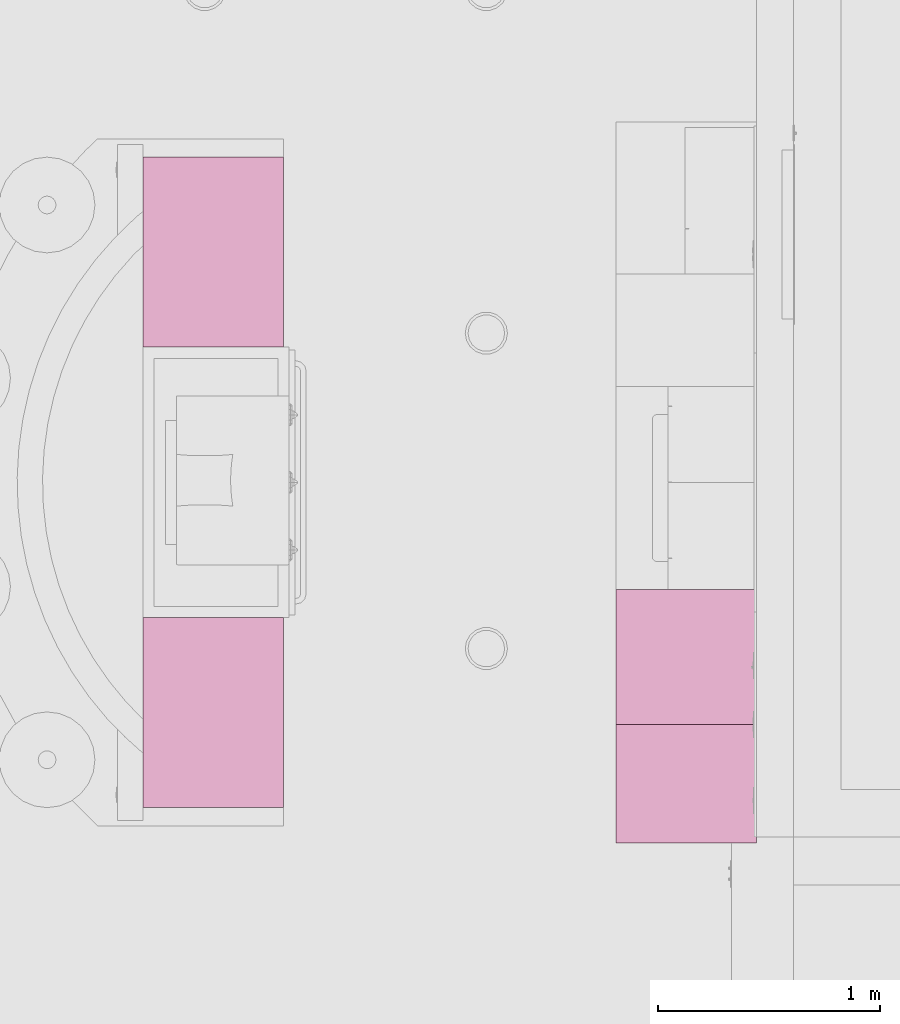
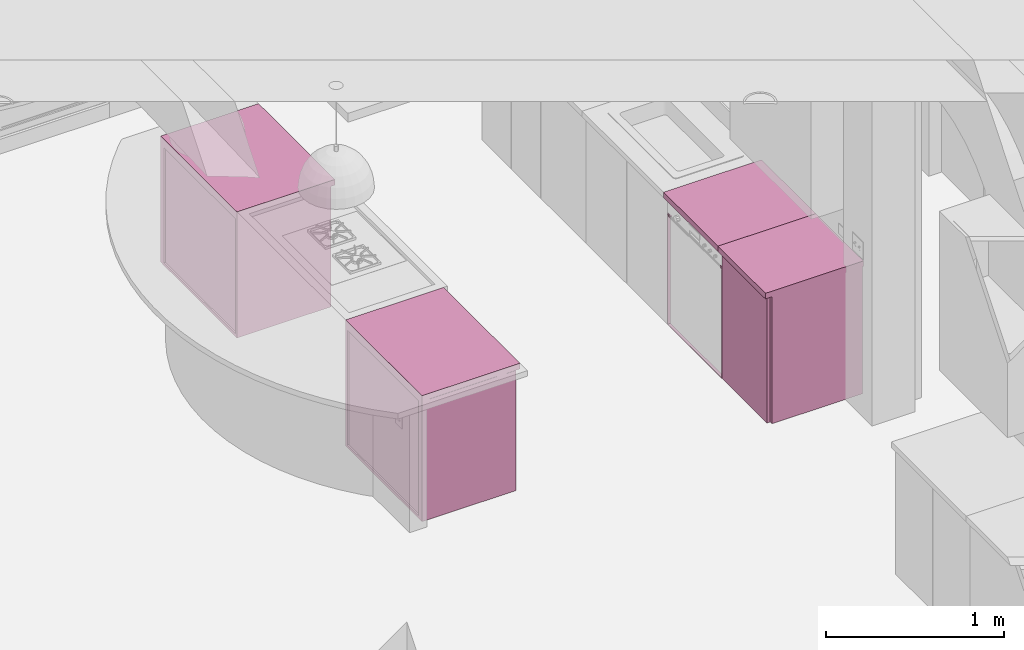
# One storey, part 46 of 103: 4 furnishings.
"""IFC2X3 building model written with IfcOpenShell, lengths in inches."""

from ifc_helpers import new_model, entity, si_unit, converted_unit, derived_unit, money_unit, direction, frame, origin_with_axes, place, context, subcontext, project, spatial, faceted_brep, type_object, element, save


model = new_model("IFC2X3")

# Units and contexts
model_context = context("Model", 3, precision=0.00039370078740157, world=origin_with_axes(), true_north=direction((0.0, 1.0)))
plan_context = context("Plan", 3, precision=0.00039370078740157, world=origin_with_axes(), true_north=direction((0.0, 1.0)))
body_context = subcontext(model_context, "Body", "Model", "MODEL_VIEW")
ifc_project = project(units=[converted_unit("LENGTHUNIT", "INCH", entity("IfcPositiveLengthMeasure", 0.0254), si_unit("LENGTHUNIT", "METRE"), dimensions=[1, 0, 0, 0, 0, 0, 0]), converted_unit("AREAUNIT", "SQUARE_FOOT", entity("IfcPositiveLengthMeasure", 0.09290304), si_unit("AREAUNIT", "SQUARE_METRE"), dimensions=[2, 0, 0, 0, 0, 0, 0]), si_unit("PLANEANGLEUNIT", "RADIAN"), si_unit("SOLIDANGLEUNIT", "STERADIAN"), money_unit("USD"), converted_unit("TIMEUNIT", "Year", entity("IfcTimeMeasure", 31557600.0), si_unit("TIMEUNIT", "SECOND"), dimensions=[0, 0, 1, 0, 0, 0, 0]), si_unit("MASSUNIT", "GRAM", prefix="KILO"), si_unit("THERMODYNAMICTEMPERATUREUNIT", "DEGREE_CELSIUS"), si_unit("LUMINOUSINTENSITYUNIT", "LUMEN"), si_unit("ENERGYUNIT", "JOULE", prefix="MEGA"), derived_unit("SPECIFICHEATCAPACITYUNIT", [(si_unit("ENERGYUNIT", "JOULE"), 1), (si_unit("MASSUNIT", "GRAM", prefix="KILO"), -1), (si_unit("THERMODYNAMICTEMPERATUREUNIT", "KELVIN"), -1)])], contexts=[model_context, plan_context])

# Site, building, storey
site_placement = place(None, origin_with_axes())
site = spatial("IfcSite", under=ifc_project, at=site_placement, Name="Site", CompositionType="ELEMENT")
building_placement = place(site_placement, origin_with_axes())
building = spatial("IfcBuilding", under=site, at=building_placement, Name="Building", CompositionType="ELEMENT")
storey_placement = place(building_placement, frame((0.0, 0.0, 127.9999999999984), z_axis=(0.0, 0.0, 1.0), x_axis=(1.0, 0.0, 0.0)))
storey = spatial("IfcBuildingStorey", under=building, at=storey_placement, Name="Second Floor", CompositionType="ELEMENT", Elevation=128.0)

# Furnishings
furniture_type = type_object("IfcFurnitureType", Name="Base Cabinet Block", AssemblyPlace="NOTDEFINED")
furnishing_1_placement = place(storey_placement, frame((45.99979504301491, 235.9951834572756, 0.0), z_axis=(0.0, 0.0, 1.0), x_axis=(-2.019381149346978e-06, 0.9999999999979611, 0.0)))
element("IfcFurnishingElement", 1, at=furnishing_1_placement, inside=storey, type_object=furniture_type, Name="OBJ-16", context=body_context, shape_type="Brep", body=[
    faceted_brep([(0.0, -24.99999999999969, 32.49999999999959), (0.0, -24.99999999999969, 33.99999999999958), (-33.74999999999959, -24.99999999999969, 33.99999999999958), (-33.74999999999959, -24.99999999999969, 32.49999999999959), (0.0, 0.0, 32.49999999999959), (0.0, 0.0, 33.99999999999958), (-33.74999999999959, 0.0, 33.99999999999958), (-33.74999999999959, 0.0, 32.49999999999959)], [[[0, 1, 2, 3]], [[4, 5, 1, 0]], [[1, 5, 6, 2]], [[3, 2, 6, 7]], [[0, 3, 7, 4]], [[7, 6, 5, 4]]]),
    faceted_brep([(-32.99999999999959, -23.96062992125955, 0.039370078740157), (-33.74999999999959, -23.96062992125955, 0.03937007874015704), (-33.74999999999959, -0.03937007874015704, 0.03937007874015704), (-32.99999999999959, -0.03937007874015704, 0.039370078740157), (-32.99999999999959, -23.96062992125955, 32.46062992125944), (-33.74999999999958, -23.96062992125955, 32.46062992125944), (-33.74999999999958, -0.03937007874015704, 32.46062992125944), (-32.99999999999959, -0.03937007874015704, 32.46062992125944)], [[[0, 1, 2, 3]], [[4, 5, 1, 0]], [[1, 5, 6, 2]], [[3, 2, 6, 7]], [[0, 3, 7, 4]], [[7, 6, 5, 4]]]),
    faceted_brep([(-0.7499999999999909, -23.9999999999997, 0.0), (-0.7499999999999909, -23.9999999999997, 0.7499999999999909), (-32.2499999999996, -23.9999999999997, 0.7499999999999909), (-32.2499999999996, -23.9999999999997, 0.0), (-0.7499999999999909, 0.0, 0.0), (-0.7499999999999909, 0.0, 0.7499999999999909), (-32.2499999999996, 0.0, 0.7499999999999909), (-32.2499999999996, 0.0, 0.0)], [[[0, 1, 2, 3]], [[4, 5, 1, 0]], [[1, 5, 6, 2]], [[3, 2, 6, 7]], [[0, 3, 7, 4]], [[7, 6, 5, 4]]]),
    faceted_brep([(-0.7499999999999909, -23.9999999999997, 31.74999999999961), (-32.2499999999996, -23.9999999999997, 31.74999999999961), (-32.2499999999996, -21.63779527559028, 31.74999999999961), (-0.7499999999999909, -21.63779527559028, 31.74999999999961), (-0.7499999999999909, -23.9999999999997, 32.49999999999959), (-32.2499999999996, -23.9999999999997, 32.49999999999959), (-32.2499999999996, -21.63779527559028, 32.49999999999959), (-0.7499999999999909, -21.63779527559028, 32.49999999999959)], [[[0, 1, 2, 3]], [[4, 5, 1, 0]], [[1, 5, 6, 2]], [[3, 2, 6, 7]], [[0, 3, 7, 4]], [[7, 6, 5, 4]]]),
    faceted_brep([(-32.2499999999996, 0.0, 31.74999999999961), (-0.7499999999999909, 0.0, 31.74999999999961), (-0.7499999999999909, -2.36220472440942, 31.74999999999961), (-32.2499999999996, -2.36220472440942, 31.74999999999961), (-32.2499999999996, 0.0, 32.49999999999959), (-0.7499999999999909, 0.0, 32.49999999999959), (-0.7499999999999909, -2.36220472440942, 32.49999999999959), (-32.2499999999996, -2.36220472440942, 32.49999999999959)], [[[0, 1, 2, 3]], [[4, 5, 1, 0]], [[1, 5, 6, 2]], [[3, 2, 6, 7]], [[0, 3, 7, 4]], [[7, 6, 5, 4]]]),
    faceted_brep([(0.0, 0.0, 0.0), (0.0, 0.0, 32.49999999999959), (0.0, -23.9999999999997, 32.49999999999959), (0.0, -23.9999999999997, 0.0), (-0.7499999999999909, 0.0, 0.0), (-0.7499999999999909, 0.0, 32.49999999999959), (-0.7499999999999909, -23.9999999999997, 32.49999999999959), (-0.7499999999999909, -23.9999999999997, 0.0)], [[[0, 1, 2, 3]], [[4, 5, 1, 0]], [[1, 5, 6, 2]], [[3, 2, 6, 7]], [[0, 3, 7, 4]], [[7, 6, 5, 4]]]),
    faceted_brep([(-32.99999999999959, -23.9999999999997, 0.0), (-32.99999999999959, -23.9999999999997, 32.49999999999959), (-32.99999999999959, 0.0, 32.49999999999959), (-32.99999999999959, 0.0, 0.0), (-32.2499999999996, -23.9999999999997, 0.0), (-32.2499999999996, -23.9999999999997, 32.49999999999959), (-32.2499999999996, 0.0, 32.49999999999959), (-32.2499999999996, 0.0, 0.0)], [[[0, 1, 2, 3]], [[4, 5, 1, 0]], [[1, 5, 6, 2]], [[3, 2, 6, 7]], [[0, 3, 7, 4]], [[7, 6, 5, 4]]]),
    faceted_brep([(-32.2499999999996, -0.3749999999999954, 0.7499999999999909), (-32.2499999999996, -0.3749999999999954, 31.74999999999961), (-0.7499999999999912, -0.3749999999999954, 31.74999999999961), (-0.7499999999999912, -0.3749999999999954, 0.7499999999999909), (-32.2499999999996, -0.7499999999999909, 0.7499999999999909), (-32.2499999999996, -0.7499999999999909, 31.74999999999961), (-0.7499999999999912, -0.7499999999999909, 31.74999999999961), (-0.7499999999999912, -0.7499999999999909, 0.7499999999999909)], [[[0, 1, 2, 3]], [[4, 5, 1, 0]], [[1, 5, 6, 2]], [[3, 2, 6, 7]], [[0, 3, 7, 4]], [[7, 6, 5, 4]]]),
])
furnishing_2_placement = place(storey_placement, frame((154.9997849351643, 241.0007128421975, 0.0), z_axis=(0.0, 0.0, 1.0), x_axis=(2.019381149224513e-06, -0.9999999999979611, 0.0)))
element("IfcFurnishingElement", 2, at=furnishing_2_placement, inside=storey, type_object=furniture_type, Name="OBJ-16", context=body_context, shape_type="Brep", body=[
    faceted_brep([(0.0, -24.99999999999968, 35.99999999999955), (0.0, -24.99999999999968, 34.49999999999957), (23.99999999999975, -24.99999999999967, 34.49999999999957), (23.99999999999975, -24.99999999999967, 35.99999999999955), (0.0, 0.0, 35.99999999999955), (0.0, 0.0, 34.49999999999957), (23.99999999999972, 0.0, 34.49999999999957), (23.99999999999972, 0.0, 35.99999999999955)], [[[0, 1, 2, 3]], [[4, 5, 1, 0]], [[2, 1, 5, 6]], [[3, 2, 6, 7]], [[4, 0, 3, 7]], [[7, 6, 5, 4]]]),
    faceted_brep([(0.7500000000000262, -23.9999999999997, 0.05905511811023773), (0.7500000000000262, -23.24999999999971, 0.05905511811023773), (0.7500000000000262, -23.24999999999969, 0.0), (0.7500000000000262, -23.9999999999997, 0.0), (23.24999999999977, -23.24999999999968, 0.05905511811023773), (23.24999999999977, -23.99999999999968, 0.05905511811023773), (23.24999999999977, -23.24999999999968, 0.0), (23.24999999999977, -23.9999999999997, 0.0)], [[[0, 1, 2, 3]], [[4, 1, 0, 5]], [[1, 4, 6, 2]], [[2, 6, 7, 3]], [[5, 0, 3, 7]], [[4, 5, 7, 6]]]),
    faceted_brep([(23.24999999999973, -0.3749999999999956, 33.74999999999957), (23.24999999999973, -0.3749999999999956, 0.7499999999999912), (0.7500000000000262, -0.3749999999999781, 0.7499999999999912), (0.7500000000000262, -0.3749999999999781, 33.74999999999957), (23.24999999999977, -0.7499999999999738, 33.74999999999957), (23.24999999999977, -0.7499999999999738, 0.7499999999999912), (0.7500000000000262, -0.7499999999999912, 0.7499999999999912), (0.7500000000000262, -0.7499999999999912, 33.74999999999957)], [[[0, 1, 2, 3]], [[4, 5, 1, 0]], [[2, 1, 5, 6]], [[3, 2, 6, 7]], [[4, 0, 3, 7]], [[7, 6, 5, 4]]]),
    faceted_brep([(0.7500000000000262, -0.7499999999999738, 33.74999999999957), (0.7500000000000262, -0.7499999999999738, 34.49999999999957), (0.7500000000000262, 0.0, 34.49999999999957), (0.7500000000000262, 0.0, 33.74999999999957), (23.24999999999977, -0.7499999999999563, 34.49999999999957), (23.24999999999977, -0.7499999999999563, 33.74999999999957), (23.24999999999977, 0.0, 34.49999999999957), (23.24999999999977, 0.0, 33.74999999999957)], [[[0, 1, 2, 3]], [[4, 1, 0, 5]], [[1, 4, 6, 2]], [[2, 6, 7, 3]], [[5, 0, 3, 7]], [[4, 5, 7, 6]]]),
    faceted_brep([(-4.816189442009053e-07, -23.99999999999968, 29.38188976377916), (-4.816189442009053e-07, -23.24999999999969, 29.38188976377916), (-4.816189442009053e-07, -23.24999999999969, 0.0), (0.0, -23.9999999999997, 0.0), (0.7500000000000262, -23.9999999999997, 29.38188976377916), (0.7500000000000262, -23.24999999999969, 29.38188976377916), (0.7500000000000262, -23.24999999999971, 29.32283464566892), (0.0590546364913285, -23.24999999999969, 29.32283464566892), (0.0590546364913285, -23.24999999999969, 0.05905511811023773), (0.7500000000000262, -23.24999999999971, 0.05905511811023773), (0.7500000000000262, -23.24999999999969, 0.0), (0.7500000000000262, -23.9999999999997, 0.0), (0.7500000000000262, -23.9999999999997, 0.05905511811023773), (0.0590546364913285, -23.99999999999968, 0.05905511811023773), (0.0590546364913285, -23.99999999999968, 29.32283464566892), (0.7500000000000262, -23.9999999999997, 29.32283464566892)], [[[0, 1, 2, 3]], [[1, 0, 4, 5]], [[1, 5, 6, 7, 8, 9, 10, 2]], [[2, 10, 11, 3]], [[4, 0, 3, 11, 12, 13, 14, 15]], [[4, 15, 6, 5]], [[7, 6, 15, 14]], [[8, 7, 14, 13]], [[9, 8, 13, 12]], [[9, 12, 11, 10]]]),
    faceted_brep([(23.24999999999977, -23.99999999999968, 29.38188976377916), (23.24999999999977, -23.24999999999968, 29.38188976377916), (23.24999999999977, -23.24999999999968, 29.32283464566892), (23.24999999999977, -23.99999999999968, 29.32283464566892), (23.99999951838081, -23.99999999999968, 29.38188976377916), (23.99999951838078, -23.24999999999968, 29.38188976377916), (23.99999951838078, -23.24999999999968, 0.0), (23.24999999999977, -23.24999999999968, 0.0), (23.24999999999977, -23.24999999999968, 0.05905511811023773), (23.94094440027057, -23.24999999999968, 0.05905511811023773), (23.94094440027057, -23.24999999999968, 29.32283464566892), (23.94094440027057, -23.99999999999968, 29.32283464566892), (23.94094440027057, -23.99999999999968, 0.05905511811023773), (23.24999999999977, -23.99999999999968, 0.05905511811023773), (23.24999999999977, -23.9999999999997, 0.0), (23.99999999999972, -23.9999999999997, 0.0)], [[[0, 1, 2, 3]], [[1, 0, 4, 5]], [[1, 5, 6, 7, 8, 9, 10, 2]], [[3, 2, 10, 11]], [[4, 0, 3, 11, 12, 13, 14, 15]], [[4, 15, 6, 5]], [[7, 6, 15, 14]], [[13, 8, 7, 14]], [[9, 8, 13, 12]], [[10, 9, 12, 11]]]),
    faceted_brep([(0.7500000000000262, -0.7499999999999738, 0.0), (0.7500000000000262, -0.7499999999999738, 0.7499999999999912), (0.7500000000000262, 0.0, 0.7499999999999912), (0.7500000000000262, 0.0, 0.0), (23.24999999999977, -0.7499999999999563, 0.7499999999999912), (23.24999999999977, -0.7499999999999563, 0.0), (23.24999999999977, 0.0, 0.7499999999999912), (23.24999999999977, 0.0, 0.0)], [[[0, 1, 2, 3]], [[4, 1, 0, 5]], [[1, 4, 6, 2]], [[6, 7, 3, 2]], [[5, 0, 3, 7]], [[4, 5, 7, 6]]]),
    faceted_brep([(-4.816189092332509e-07, -0.7499999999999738, 34.49999999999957), (0.0, 0.0, 34.49999999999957), (0.0, 0.0, 0.0), (-4.816189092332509e-07, -0.7499999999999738, 0.0), (0.7500000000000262, -0.7499999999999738, 34.49999999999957), (0.7500000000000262, 0.0, 34.49999999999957), (0.7500000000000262, 0.0, 0.0), (0.7500000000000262, -0.7499999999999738, 0.0)], [[[0, 1, 2, 3]], [[0, 4, 5, 1]], [[5, 6, 2, 1]], [[7, 3, 2, 6]], [[7, 4, 0, 3]], [[7, 6, 5, 4]]]),
    faceted_brep([(23.24999999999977, -0.7499999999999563, 34.49999999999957), (23.24999999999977, 0.0, 34.49999999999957), (23.24999999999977, 0.0, 0.0), (23.24999999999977, -0.7499999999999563, 0.0), (23.99999951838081, -0.7499999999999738, 34.49999999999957), (23.99999999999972, 0.0, 34.49999999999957), (23.99999999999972, 0.0, 0.0), (23.99999951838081, -0.7499999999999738, 0.0)], [[[0, 1, 2, 3]], [[0, 4, 5, 1]], [[5, 6, 2, 1]], [[7, 3, 2, 6]], [[7, 4, 0, 3]], [[7, 6, 5, 4]]]),
    faceted_brep([(-4.816189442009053e-07, -23.99999999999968, 29.74746906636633), (-4.816189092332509e-07, -23.81249999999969, 29.74746906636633), (-4.816189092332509e-07, -23.81249999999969, 29.56467941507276), (-4.816189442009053e-07, -23.99999999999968, 29.56467941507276), (0.7500000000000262, -23.81249999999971, 29.74746906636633), (0.7500000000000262, -23.9999999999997, 29.74746906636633), (0.7500000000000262, -23.81249999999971, 29.56467941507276), (0.7500000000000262, -23.9999999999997, 29.56467941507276)], [[[0, 1, 2, 3]], [[4, 1, 0, 5]], [[1, 4, 6, 2]], [[3, 2, 6, 7]], [[5, 0, 3, 7]], [[4, 5, 7, 6]]]),
    faceted_brep([(23.24999999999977, -23.99999999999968, 29.74746906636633), (23.24999999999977, -23.81249999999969, 29.74746906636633), (23.24999999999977, -23.81249999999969, 29.56467941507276), (23.24999999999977, -23.99999999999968, 29.56467941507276), (23.99999951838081, -23.81249999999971, 29.74746906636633), (23.99999951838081, -23.99999999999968, 29.74746906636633), (23.99999951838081, -23.81249999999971, 29.56467941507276), (23.99999951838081, -23.99999999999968, 29.56467941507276)], [[[0, 1, 2, 3]], [[4, 1, 0, 5]], [[1, 4, 6, 2]], [[3, 2, 6, 7]], [[5, 0, 3, 7]], [[4, 5, 7, 6]]]),
    faceted_brep([(0.7500000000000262, -23.81249999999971, 29.93025871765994), (-4.816189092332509e-07, -23.81249999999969, 29.93025871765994), (-4.816189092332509e-07, -23.81249999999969, 30.11304836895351), (0.7500000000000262, -23.81249999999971, 30.11304836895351), (-4.816189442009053e-07, -23.99999999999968, 29.93025871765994), (0.7500000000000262, -23.9999999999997, 29.93025871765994), (-4.816189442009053e-07, -23.99999999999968, 30.11304836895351), (0.7500000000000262, -23.9999999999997, 30.11304836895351)], [[[0, 1, 2, 3]], [[4, 1, 0, 5]], [[1, 4, 6, 2]], [[3, 2, 6, 7]], [[5, 0, 3, 7]], [[4, 5, 7, 6]]]),
    faceted_brep([(23.99999951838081, -23.81249999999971, 29.93025871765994), (23.24999999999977, -23.81249999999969, 29.93025871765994), (23.24999999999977, -23.81249999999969, 30.11304836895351), (23.99999951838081, -23.81249999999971, 30.11304836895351), (23.24999999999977, -23.99999999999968, 29.93025871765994), (23.99999951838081, -23.99999999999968, 29.93025871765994), (23.24999999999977, -23.99999999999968, 30.11304836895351), (23.99999951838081, -23.99999999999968, 30.11304836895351)], [[[0, 1, 2, 3]], [[4, 1, 0, 5]], [[1, 4, 6, 2]], [[3, 2, 6, 7]], [[5, 0, 3, 7]], [[4, 5, 7, 6]]]),
])
furnishing_3_placement = place(storey_placement, frame((154.9998334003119, 217.0007128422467, 0.0), z_axis=(0.0, 0.0, 1.0), x_axis=(2.019381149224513e-06, -0.9999999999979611, 0.0)))
element("IfcFurnishingElement", 3, at=furnishing_3_placement, inside=storey, type_object=furniture_type, Name="OBJ-15", context=body_context, shape_type="Brep", body=[
    faceted_brep([(0.0, -24.99999999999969, 34.49999999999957), (20.99999999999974, -24.99999999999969, 34.49999999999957), (20.99999999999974, -24.99999999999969, 35.99999999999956), (0.0, -24.99999999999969, 35.99999999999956), (0.0, 0.0, 34.49999999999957), (20.99999999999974, 0.0, 34.49999999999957), (20.99999999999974, 0.0, 35.99999999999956), (0.0, 0.0, 35.99999999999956)], [[[0, 1, 2, 3]], [[0, 4, 5, 1]], [[1, 5, 6, 2]], [[3, 2, 6, 7]], [[4, 0, 3, 7]], [[5, 4, 7, 6]]]),
    faceted_brep([(0.039370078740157, -23.24999999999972, 0.039370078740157), (19.9606299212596, -23.24999999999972, 0.039370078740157), (19.9606299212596, -23.99999999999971, 0.03937007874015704), (0.039370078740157, -23.99999999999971, 0.03937007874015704), (0.039370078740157, -23.24999999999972, 34.46062992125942), (19.9606299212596, -23.24999999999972, 34.46062992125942), (19.9606299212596, -23.9999999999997, 34.46062992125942), (0.039370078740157, -23.9999999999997, 34.46062992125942)], [[[0, 1, 2, 3]], [[0, 4, 5, 1]], [[1, 5, 6, 2]], [[3, 2, 6, 7]], [[4, 0, 3, 7]], [[5, 4, 7, 6]]]),
    faceted_brep([(19.99999999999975, -23.21062992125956, 0.039370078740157), (19.99999999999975, -0.03937007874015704, 0.039370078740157), (20.74999999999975, -0.03937007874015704, 0.03937007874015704), (20.74999999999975, -23.21062992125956, 0.03937007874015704), (19.99999999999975, -23.21062992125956, 34.46062992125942), (19.99999999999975, -0.03937007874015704, 34.46062992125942), (20.74999999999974, -0.03937007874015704, 34.46062992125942), (20.74999999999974, -23.21062992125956, 34.46062992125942)], [[[0, 1, 2, 3]], [[0, 4, 5, 1]], [[1, 5, 6, 2]], [[3, 2, 6, 7]], [[4, 0, 3, 7]], [[5, 4, 7, 6]]]),
    faceted_brep([(0.7499999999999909, -23.24999999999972, 0.0), (19.24999999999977, -23.24999999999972, 0.0), (19.24999999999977, -23.24999999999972, 0.7499999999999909), (0.7499999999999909, -23.24999999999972, 0.7499999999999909), (0.7499999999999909, 0.0, 0.0), (19.24999999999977, 0.0, 0.0), (19.24999999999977, 0.0, 0.7499999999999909), (0.7499999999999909, 0.0, 0.7499999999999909)], [[[0, 1, 2, 3]], [[0, 4, 5, 1]], [[1, 5, 6, 2]], [[3, 2, 6, 7]], [[4, 0, 3, 7]], [[5, 4, 7, 6]]]),
    faceted_brep([(0.7499999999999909, -23.24999999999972, 33.74999999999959), (0.7499999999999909, -20.8877952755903, 33.74999999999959), (19.24999999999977, -20.8877952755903, 33.74999999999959), (19.24999999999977, -23.24999999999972, 33.74999999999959), (0.7499999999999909, -23.24999999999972, 34.49999999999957), (0.7499999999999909, -20.8877952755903, 34.49999999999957), (19.24999999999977, -20.8877952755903, 34.49999999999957), (19.24999999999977, -23.24999999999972, 34.49999999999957)], [[[0, 1, 2, 3]], [[0, 4, 5, 1]], [[1, 5, 6, 2]], [[3, 2, 6, 7]], [[4, 0, 3, 7]], [[5, 4, 7, 6]]]),
    faceted_brep([(19.24999999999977, 0.0, 33.74999999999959), (19.24999999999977, -2.36220472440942, 33.74999999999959), (0.7499999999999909, -2.36220472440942, 33.74999999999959), (0.7499999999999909, 0.0, 33.74999999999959), (19.24999999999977, 0.0, 34.49999999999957), (19.24999999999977, -2.36220472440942, 34.49999999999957), (0.7499999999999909, -2.36220472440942, 34.49999999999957), (0.7499999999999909, 0.0, 34.49999999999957)], [[[0, 1, 2, 3]], [[0, 4, 5, 1]], [[1, 5, 6, 2]], [[3, 2, 6, 7]], [[4, 0, 3, 7]], [[5, 4, 7, 6]]]),
    faceted_brep([(0.0, 0.0, 0.0), (0.0, -23.24999999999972, 0.0), (0.0, -23.24999999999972, 34.49999999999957), (0.0, 0.0, 34.49999999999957), (0.7499999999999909, 0.0, 0.0), (0.7499999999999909, -23.24999999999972, 0.0), (0.7499999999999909, -23.24999999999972, 34.49999999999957), (0.7499999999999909, 0.0, 34.49999999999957)], [[[0, 1, 2, 3]], [[0, 4, 5, 1]], [[1, 5, 6, 2]], [[3, 2, 6, 7]], [[4, 0, 3, 7]], [[5, 4, 7, 6]]]),
    faceted_brep([(19.99999999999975, -23.24999999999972, 0.0), (19.99999999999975, 0.0, 0.0), (19.99999999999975, 0.0, 34.49999999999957), (19.99999999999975, -23.24999999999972, 34.49999999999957), (19.24999999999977, -23.24999999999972, 0.0), (19.24999999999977, 0.0, 0.0), (19.24999999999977, 0.0, 34.49999999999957), (19.24999999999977, -23.24999999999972, 34.49999999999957)], [[[0, 1, 2, 3]], [[0, 4, 5, 1]], [[1, 5, 6, 2]], [[3, 2, 6, 7]], [[4, 0, 3, 7]], [[5, 4, 7, 6]]]),
    faceted_brep([(19.24999999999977, -0.3749999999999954, 0.7499999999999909), (0.7499999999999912, -0.3749999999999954, 0.7499999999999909), (0.7499999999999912, -0.3749999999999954, 33.74999999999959), (19.24999999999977, -0.3749999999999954, 33.74999999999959), (19.24999999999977, -0.7499999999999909, 0.7499999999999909), (0.7499999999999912, -0.7499999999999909, 0.7499999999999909), (0.7499999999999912, -0.7499999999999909, 33.74999999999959), (19.24999999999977, -0.7499999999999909, 33.74999999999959)], [[[0, 1, 2, 3]], [[0, 4, 5, 1]], [[1, 5, 6, 2]], [[3, 2, 6, 7]], [[4, 0, 3, 7]], [[5, 4, 7, 6]]]),
])
furnishing_4_placement = place(storey_placement, frame((45.99969810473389, 283.9991381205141, 0.0), z_axis=(0.0, 0.0, 1.0), x_axis=(-2.019381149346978e-06, 0.9999999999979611, 0.0)))
element("IfcFurnishingElement", 4, at=furnishing_4_placement, inside=storey, type_object=furniture_type, Name="OBJ-16", context=body_context, shape_type="Brep", body=[
    faceted_brep([(0.0, -24.99999999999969, 32.49999999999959), (33.74999999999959, -24.99999999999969, 32.49999999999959), (33.74999999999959, -24.99999999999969, 33.99999999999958), (0.0, -24.99999999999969, 33.99999999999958), (0.0, 0.0, 32.49999999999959), (33.74999999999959, 0.0, 32.49999999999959), (33.74999999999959, 0.0, 33.99999999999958), (0.0, 0.0, 33.99999999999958)], [[[0, 1, 2, 3]], [[0, 4, 5, 1]], [[1, 5, 6, 2]], [[3, 2, 6, 7]], [[4, 0, 3, 7]], [[5, 4, 7, 6]]]),
    faceted_brep([(32.99999999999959, -23.96062992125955, 0.039370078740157), (32.99999999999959, -0.03937007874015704, 0.039370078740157), (33.74999999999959, -0.03937007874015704, 0.03937007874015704), (33.74999999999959, -23.96062992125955, 0.03937007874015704), (32.99999999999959, -23.96062992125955, 32.46062992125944), (32.99999999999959, -0.03937007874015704, 32.46062992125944), (33.74999999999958, -0.03937007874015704, 32.46062992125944), (33.74999999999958, -23.96062992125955, 32.46062992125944)], [[[0, 1, 2, 3]], [[0, 4, 5, 1]], [[1, 5, 6, 2]], [[3, 2, 6, 7]], [[4, 0, 3, 7]], [[5, 4, 7, 6]]]),
    faceted_brep([(0.7499999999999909, -23.9999999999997, 0.0), (32.2499999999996, -23.9999999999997, 0.0), (32.2499999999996, -23.9999999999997, 0.7499999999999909), (0.7499999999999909, -23.9999999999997, 0.7499999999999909), (0.7499999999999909, 0.0, 0.0), (32.2499999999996, 0.0, 0.0), (32.2499999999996, 0.0, 0.7499999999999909), (0.7499999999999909, 0.0, 0.7499999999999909)], [[[0, 1, 2, 3]], [[0, 4, 5, 1]], [[1, 5, 6, 2]], [[3, 2, 6, 7]], [[4, 0, 3, 7]], [[5, 4, 7, 6]]]),
    faceted_brep([(0.7499999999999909, -23.9999999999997, 31.74999999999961), (0.7499999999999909, -21.63779527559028, 31.74999999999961), (32.2499999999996, -21.63779527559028, 31.74999999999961), (32.2499999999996, -23.9999999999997, 31.74999999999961), (0.7499999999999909, -23.9999999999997, 32.49999999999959), (0.7499999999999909, -21.63779527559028, 32.49999999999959), (32.2499999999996, -21.63779527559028, 32.49999999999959), (32.2499999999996, -23.9999999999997, 32.49999999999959)], [[[0, 1, 2, 3]], [[0, 4, 5, 1]], [[1, 5, 6, 2]], [[3, 2, 6, 7]], [[4, 0, 3, 7]], [[5, 4, 7, 6]]]),
    faceted_brep([(32.2499999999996, 0.0, 31.74999999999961), (32.2499999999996, -2.36220472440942, 31.74999999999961), (0.7499999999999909, -2.36220472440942, 31.74999999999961), (0.7499999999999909, 0.0, 31.74999999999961), (32.2499999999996, 0.0, 32.49999999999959), (32.2499999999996, -2.36220472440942, 32.49999999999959), (0.7499999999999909, -2.36220472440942, 32.49999999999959), (0.7499999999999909, 0.0, 32.49999999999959)], [[[0, 1, 2, 3]], [[0, 4, 5, 1]], [[1, 5, 6, 2]], [[3, 2, 6, 7]], [[4, 0, 3, 7]], [[5, 4, 7, 6]]]),
    faceted_brep([(0.0, 0.0, 0.0), (0.0, -23.9999999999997, 0.0), (0.0, -23.9999999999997, 32.49999999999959), (0.0, 0.0, 32.49999999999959), (0.7499999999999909, 0.0, 0.0), (0.7499999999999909, -23.9999999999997, 0.0), (0.7499999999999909, -23.9999999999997, 32.49999999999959), (0.7499999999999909, 0.0, 32.49999999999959)], [[[0, 1, 2, 3]], [[0, 4, 5, 1]], [[1, 5, 6, 2]], [[3, 2, 6, 7]], [[4, 0, 3, 7]], [[5, 4, 7, 6]]]),
    faceted_brep([(32.99999999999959, -23.9999999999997, 0.0), (32.99999999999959, 0.0, 0.0), (32.99999999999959, 0.0, 32.49999999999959), (32.99999999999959, -23.9999999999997, 32.49999999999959), (32.2499999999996, -23.9999999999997, 0.0), (32.2499999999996, 0.0, 0.0), (32.2499999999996, 0.0, 32.49999999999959), (32.2499999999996, -23.9999999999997, 32.49999999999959)], [[[0, 1, 2, 3]], [[0, 4, 5, 1]], [[1, 5, 6, 2]], [[3, 2, 6, 7]], [[4, 0, 3, 7]], [[5, 4, 7, 6]]]),
    faceted_brep([(32.2499999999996, -0.3749999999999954, 0.7499999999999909), (0.7499999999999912, -0.3749999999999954, 0.7499999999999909), (0.7499999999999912, -0.3749999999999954, 31.74999999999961), (32.2499999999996, -0.3749999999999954, 31.74999999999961), (32.2499999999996, -0.7499999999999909, 0.7499999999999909), (0.7499999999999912, -0.7499999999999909, 0.7499999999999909), (0.7499999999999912, -0.7499999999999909, 31.74999999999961), (32.2499999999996, -0.7499999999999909, 31.74999999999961)], [[[0, 1, 2, 3]], [[0, 4, 5, 1]], [[1, 5, 6, 2]], [[3, 2, 6, 7]], [[4, 0, 3, 7]], [[5, 4, 7, 6]]]),
])

save(model, "model.ifc")
